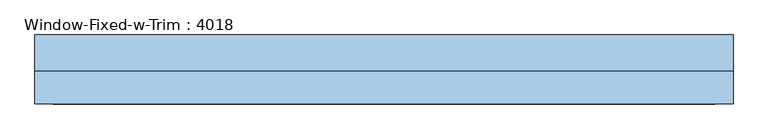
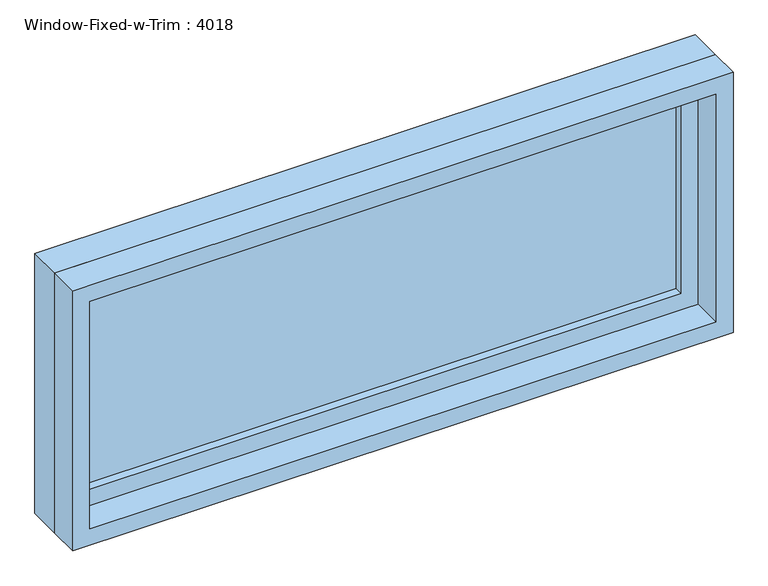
"""IFC4 building model written with IfcOpenShell, lengths in millimetres: window geometry, Window-Fixed-w-Trim : 4018."""

from ifc_helpers import new_model, si_unit, frame, origin, place, context, project, spatial, polyline, outline, extrude, source, transform, mapped, element, save


def window_fixed_w_trim_4018_577f739d(model_context):
    return source(origin(), model_context, "Body", "SweptSolid", [
        extrude(outline(polyline([(508.0, 12.7), (-584.2, 12.7), (-584.2, 25.4), (508.0, 25.4), (508.0, 12.7)])), frame((0.0, 0.0, 977.9), z_axis=(0.0, 0.0, 1.0), x_axis=(1.0, 0.0, 0.0)), (0.0, 0.0, 1.0), 381.0),
        extrude(outline(polyline([(1403.35, -628.65), (933.45, -628.65), (933.45, 552.45), (1403.35, 552.45), (1403.35, -628.65)]), holes=[polyline([(1358.9, -584.2), (1358.9, 508.0), (977.9, 508.0), (977.9, -584.2), (1358.9, -584.2)])]), frame((0.0, -3.175, 0.0), z_axis=(0.0, 1.0, 0.0), x_axis=(0.0, 0.0, 1.0)), (0.0, 0.0, 1.0), 44.45),
        extrude(outline(polyline([(1422.4, -647.7), (914.4, -647.7), (914.4, 571.5), (1422.4, 571.5), (1422.4, -647.7)]), holes=[polyline([(1390.65, -615.95), (1390.65, 539.75), (946.15, 539.75), (946.15, -615.95), (1390.65, -615.95)])]), frame((0.0, -60.325, 0.0), z_axis=(0.0, 1.0, 0.0), x_axis=(0.0, 0.0, 1.0)), (0.0, 0.0, 1.0), 57.15),
        extrude(outline(polyline([(1422.4, 571.5), (1422.4, -647.7), (914.4, -647.7), (914.4, 571.5), (1422.4, 571.5)]), holes=[polyline([(1403.35, 552.45), (933.45, 552.45), (933.45, -628.65), (1403.35, -628.65), (1403.35, 552.45)])]), frame((0.0, -3.175, 0.0), z_axis=(0.0, 1.0, 0.0), x_axis=(0.0, 0.0, 1.0)), (0.0, 0.0, 1.0), 63.5),
    ])


if __name__ == "__main__":
    model = new_model("IFC4")
    model_context = context("Model", 3, world=origin())
    ifc_project = project(units=[si_unit("LENGTHUNIT", "METRE", prefix="MILLI")], contexts=[model_context])
    site = spatial("IfcSite", under=ifc_project)
    building = spatial("IfcBuilding", under=site)
    placement = place(None, origin())
    window_fixed_w_trim_4018_shape = window_fixed_w_trim_4018_577f739d(model_context)
    element("IfcWindow", 1, ObjectType="Window-Fixed-w-Trim : 4018", at=placement, inside=building, context=model_context, shape_type="MappedRepresentation", body=[
        mapped(window_fixed_w_trim_4018_shape, transform((0.0, 0.0, 0.0), x_axis=(1.0, 0.0, 0.0), y_axis=(0.0, 1.0, 0.0), z_axis=(0.0, 0.0, 1.0))),
    ])
    save(model, "model.ifc")
